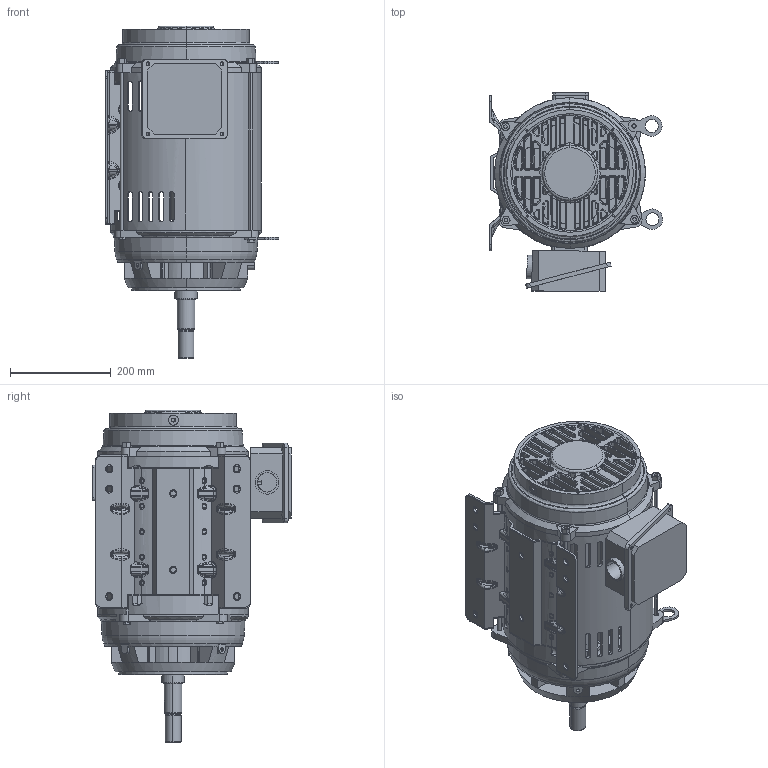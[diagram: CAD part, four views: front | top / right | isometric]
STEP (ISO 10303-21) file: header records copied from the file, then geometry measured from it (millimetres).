
FILE_DESCRIPTION (( 'STEP AP203' ), '1' );
FILE_NAME ('SS620822.STEP', '2018-08-22T05:14:21', ( '' ), ( '' ), 'SwSTEP 2.0', 'SolidWorks 2015', '' );
FILE_SCHEMA (( 'CONFIG_CONTROL_DESIGN' ));
Products named in the file (4): 8013254083; 8200254006; SS620822; ODP-256T
Assembly tree (3 placements, depth 2):
  SS620822
    ODP-256T
    8013254083
    8200254006
Bounding box: 344.85 x 395.64 x 660.4 mm (x, y, z)
Volume: 9929421 mm3; surface area: 2036441.2 mm2
Topology: 19 solids, 19 shells, 2443 faces, 6567 edges, 4074 vertices
Faces by surface type: cylinder 887, plane 673, bspline 441, cone 411, torus 31
Entity records: 112714 total; most frequent: CARTESIAN_POINT 54160, ORIENTED_EDGE 13038, DIRECTION 11253, EDGE_CURVE 6519, AXIS2_PLACEMENT_3D 4330, VERTEX_POINT 4074, EDGE_LOOP 2713, LINE 2593
